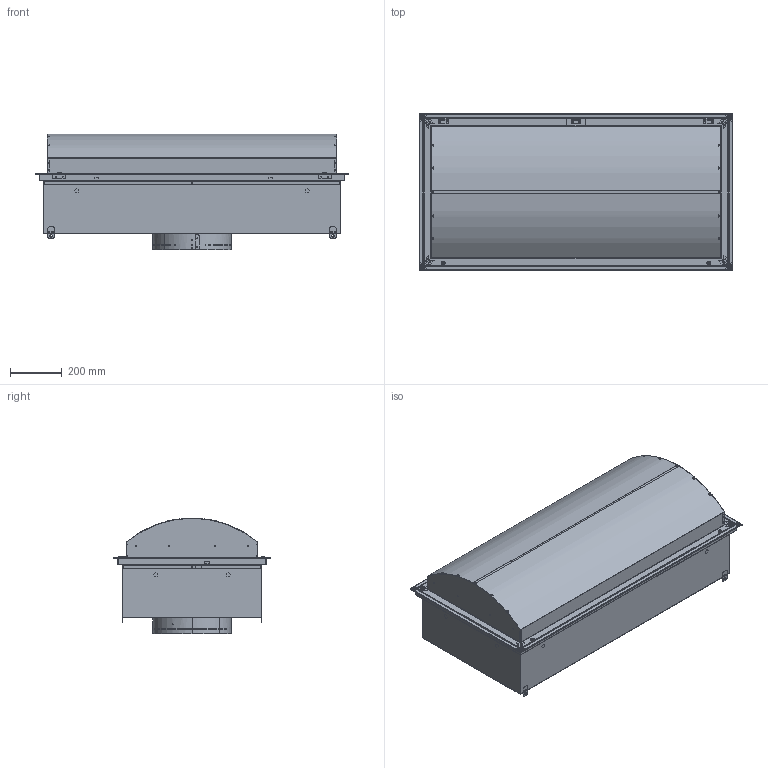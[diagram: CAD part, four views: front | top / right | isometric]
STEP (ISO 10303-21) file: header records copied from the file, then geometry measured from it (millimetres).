
FILE_DESCRIPTION (( 'STEP AP214' ), '1' );
FILE_NAME ('48 X 24_HRDP-HEPA_.STEP', '2025-07-25T19:41:44', ( '' ), ( '' ), 'SwSTEP 2.0', 'SolidWorks 2024', '' );
FILE_SCHEMA (( 'AUTOMOTIVE_DESIGN' ));
Length unit declared in the file: inch
Products named in the file (50): 061325-HRDPs_FC3E-A1_L04; 061325-HRDPs_PLASTER-SUB_L04; 061325-HRDPs_FACE-SUB_L04; 061325-HRDPs_PORTS-SUB_L04; 061325-HRDPs_FP1B-SUB_L04; 061325-HRDPs_H1V7_L04_WASHER, TEFLON: 0.50"OD x 0.25"ID x 0.025"th; 061325-HRDPs_PLENUM-SUB_L04; 061325-HRDPs_H2E2_L04_WELD CLIP, BOB FRAME; 061325-HRDPs_H1Z26_L04_LABEL; "CONCENTRATION"; 061325-HRDPs_K2A1_L04; 061325-HRDPs_R3B2B_SUB_L04; 061325-HRDPs_FP1B20-A3_L04; 061325-HRDPs_FC3E-A3_L04; 061325-HRDPs_H2E12_L04_CLIP, HEPA FILTER, SWING ARM; 061325-HRDPs_H1V31_L04_WASHER, TEFLON: 0.50"OD x 0.25"ID x 0.025"th; 061325-HRDPs_FP1B20-A4_L04; 061325-HRDPs_H1E2_L04; 061325-HRDPs_FC3E-SUB_L04; 061325-HRDPs_H1B8_L04; 061325-HRDPs_H2E5_L04; 061325-HRDPs_SM3X4_L04; 061325-HRDPs_P1B1B-SUB_L04; 061325-HRDPs_SM2X3_L04; 061325-HRDPs_EG5A_L04; 061325-HRDPs_K2A2_L04; 061325-HRDPs_C1C1C112_L04; 061325-HRDPs_H2E1_L04_WELD CLIP; 40º BEVEL FRAME; 061325-HRDPs_H1F1_L04_1_4 TURN SPRING; 48 X 24_HRDP-HEPA_; 061325-HRDPs_EG5B_L04; 061325-HRDPs_P1B1B_L04; 061325-HRDPs_H2E11_L04_GUIDE, HEPA FILTER, SWING ARM; 061325-HRDPs_H2G12_L04; 061325-HRDPs_R3B2B_L04; 061325-HRDPs_H1T3_L04_GROMMET, BLADE; 061325-HRDPs_BM5D_L04; 061325-HRDPs_H1P11_L04; 061325-HRDPs_SSRD_L04; 061325-HRDPs_H1L1_L04; 061325-HRDPs_H1Z25_L04_LABEL; "CHALLENGE."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
Assembly tree (88 placements, depth 4):
  48 X 24_HRDP-HEPA_
    061325-HRDPs_PLASTER-SUB_L04
      061325-HRDPs_FC3E-SUB_L04
        061325-HRDPs_FC3E-A1_L04
        061325-HRDPs_FC3E-A2_L04
        061325-HRDPs_FC3E-A3_L04
        061325-HRDPs_FC3E-A4_L04
        061325-HRDPs_H2E2_L04_WELD CLIP, BOB FRAME  x4
        061325-HRDPs_H2G12_L04  x2
        061325-HRDPs_H1F1_L04_1_4 TURN SPRING  x2
        061325-HRDPs_H2E11_L04_GUIDE, HEPA FILTER, SWING ARM  x6
        061325-HRDPs_H2E12_L04_CLIP, HEPA FILTER, SWING ARM  x6
        061325-HRDPs_H1V31_L04_WASHER, TEFLON: 0.50"OD x 0.25"ID x 0.025"th  x6
        061325-HRDPs_H1Z25_L04_LABEL; "CHALLENGE."
        061325-HRDPs_H1Z26_L04_LABEL; "CONCENTRATION"
      061325-HRDPs_PORTS-SUB_L04  x2
        061325-HRDPs_H1P11_L04
        061325-HRDPs_H1T7_L04_9531K23
    061325-HRDPs_FACE-SUB_L04
      061325-HRDPs_FP1B-SUB_L04
        061325-HRDPs_FP1B20-A1_L04
        061325-HRDPs_FP1B20-A2_L04
        061325-HRDPs_FP1B20-A3_L04
        061325-HRDPs_FP1B20-A4_L04
        061325-HRDPs_H2E1_L04_WELD CLIP; 40º BEVEL FRAME  x4
        061325-HRDPs_H1E1_L04  x2
        061325-HRDPs_H1E2_L04  x2
        061325-HRDPs_H1L1_L04  x3
        061325-HRDPs_H1Z24_L04
    061325-HRDPs_PERF-SUB_L04
      061325-HRDPs_R3B2B_SUB_L04
        061325-HRDPs_EG5B_L04
        061325-HRDPs_EG5A_L04
        061325-HRDPs_R3B2B_L04
    061325-HRDPs_PLENUM-SUB_L04
      061325-HRDPs_P1B1B-SUB_L04
        061325-HRDPs_P1B1B_L04
        061325-HRDPs_H2E5_L04  x4
    061325-HRDPs_C1C1C112_L04
    061325-HRDPs_SSRD_L04
      061325-HRDPs_H1L1_L04  x4
      061325-HRDPs_BM5D_L04  x2
      061325-HRDPs_SM2X3_L04
      061325-HRDPs_SM3X4_L04
      061325-HRDPs_H1A2_L04
      061325-HRDPs_H1B4_L04
      061325-HRDPs_H1V7_L04_WASHER, TEFLON: 0.50"OD x 0.25"ID x 0.025"th  x2
      061325-HRDPs_K2A2_L04  x2
      061325-HRDPs_H1T3_L04_GROMMET, BLADE  x2
      061325-HRDPs_K2A1_L04
      061325-HRDPs_H1B8_L04
Bounding box: 1212.85 x 603.25 x 448 mm (x, y, z)
Volume: 2466685.4 mm3; surface area: 5896747.5 mm2
Topology: 97 solids, 97 shells, 3657 faces, 9120 edges, 5716 vertices
Faces by surface type: plane 1814, cylinder 1430, torus 184, bspline 173, cone 44, sphere 12
Entity records: 80272 total; most frequent: CARTESIAN_POINT 23095, DIRECTION 11532, ORIENTED_EDGE 11496, EDGE_CURVE 5748, AXIS2_PLACEMENT_3D 4148, VERTEX_POINT 3574, LINE 3236, VECTOR 3236
